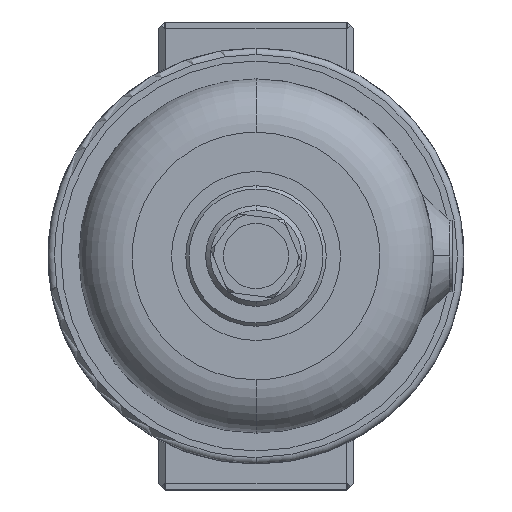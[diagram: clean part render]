
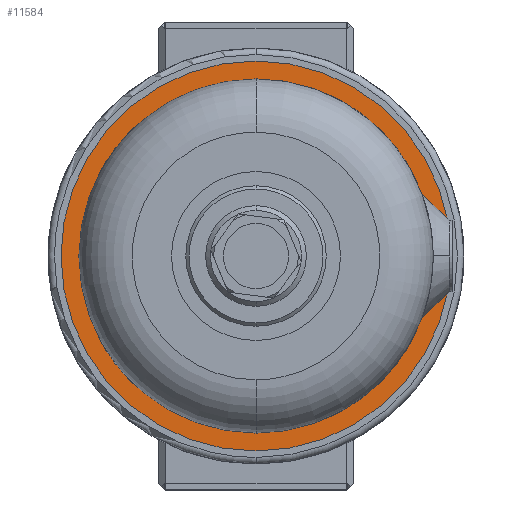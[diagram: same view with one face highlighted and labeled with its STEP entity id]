
A CAD part, front view. The second image highlights one B-rep face of the part: STEP entity #11584.
In plain terms, the highlighted planar face has unit normal (0, -1, 0).
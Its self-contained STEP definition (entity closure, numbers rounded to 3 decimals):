
#132 = DIRECTION ( 'NONE',  ( 0., 0., 1. ) ) ;
#272 = DIRECTION ( 'NONE',  ( 0., 0., 1. ) ) ;
#323 = DIRECTION ( 'NONE',  ( 0., 1., 0. ) ) ;
#497 = DIRECTION ( 'NONE',  ( 0., -1., 0. ) ) ;
#1692 = AXIS2_PLACEMENT_3D ( 'NONE', #9361, #497, #17246 ) ;
#2082 = AXIS2_PLACEMENT_3D ( 'NONE', #12051, #9248, #132 ) ;
#2230 = FACE_OUTER_BOUND ( 'NONE', #14918, .T. ) ;
#2404 = CARTESIAN_POINT ( 'NONE',  ( 0., 5.7, -30. ) ) ;
#2688 = CIRCLE ( 'NONE', #9103, 30. ) ;
#2726 = FACE_BOUND ( 'NONE', #19746, .T. ) ;
#4624 = ORIENTED_EDGE ( 'NONE', *, *, #9245, .T. ) ;
#5194 = EDGE_CURVE ( 'NONE', #12941, #8031, #18113, .T. ) ;
#7346 = AXIS2_PLACEMENT_3D ( 'NONE', #16228, #8601, #13331 ) ;
#7505 = ORIENTED_EDGE ( 'NONE', *, *, #8830, .T. ) ;
#8022 = CIRCLE ( 'NONE', #2082, 10. ) ;
#8031 = VERTEX_POINT ( 'NONE', #2404 ) ;
#8155 = CARTESIAN_POINT ( 'NONE',  ( 0., 5.7, -10. ) ) ;
#8601 = DIRECTION ( 'NONE',  ( 0., -1., 0. ) ) ;
#8682 = CARTESIAN_POINT ( 'NONE',  ( 0., 5.7, 30. ) ) ;
#8830 = EDGE_CURVE ( 'NONE', #12161, #19451, #11321, .T. ) ;
#9103 = AXIS2_PLACEMENT_3D ( 'NONE', #12181, #10740, #272 ) ;
#9245 = EDGE_CURVE ( 'NONE', #8031, #12941, #2688, .T. ) ;
#9248 = DIRECTION ( 'NONE',  ( 0., 1., 0. ) ) ;
#9361 = CARTESIAN_POINT ( 'NONE',  ( 0., 5.7, 0. ) ) ;
#10089 = PLANE ( 'NONE',  #7346 ) ;
#10740 = DIRECTION ( 'NONE',  ( 0., -1., 0. ) ) ;
#11184 = CARTESIAN_POINT ( 'NONE',  ( 0., 5.7, 0. ) ) ;
#11321 = CIRCLE ( 'NONE', #17755, 10. ) ;
#11584 = ADVANCED_FACE ( 'NONE', ( #2726, #2230 ), #10089, .T. ) ;
#11653 = CARTESIAN_POINT ( 'NONE',  ( 0., 5.7, 10. ) ) ;
#12051 = CARTESIAN_POINT ( 'NONE',  ( 0., 5.7, 0. ) ) ;
#12161 = VERTEX_POINT ( 'NONE', #11653 ) ;
#12181 = CARTESIAN_POINT ( 'NONE',  ( 0., 5.7, 0. ) ) ;
#12635 = DIRECTION ( 'NONE',  ( 0., 0., 1. ) ) ;
#12941 = VERTEX_POINT ( 'NONE', #8682 ) ;
#13331 = DIRECTION ( 'NONE',  ( 0., 0., -1. ) ) ;
#13471 = ORIENTED_EDGE ( 'NONE', *, *, #19307, .T. ) ;
#14918 = EDGE_LOOP ( 'NONE', ( #18137, #4624 ) ) ;
#16228 = CARTESIAN_POINT ( 'NONE',  ( -20., 5.7, 0. ) ) ;
#17246 = DIRECTION ( 'NONE',  ( 0., 0., 1. ) ) ;
#17755 = AXIS2_PLACEMENT_3D ( 'NONE', #11184, #323, #12635 ) ;
#18113 = CIRCLE ( 'NONE', #1692, 30. ) ;
#18137 = ORIENTED_EDGE ( 'NONE', *, *, #5194, .T. ) ;
#19307 = EDGE_CURVE ( 'NONE', #19451, #12161, #8022, .T. ) ;
#19451 = VERTEX_POINT ( 'NONE', #8155 ) ;
#19746 = EDGE_LOOP ( 'NONE', ( #7505, #13471 ) ) ;
